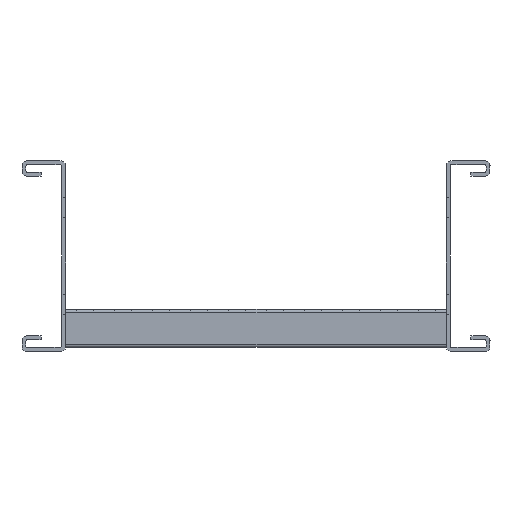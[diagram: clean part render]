
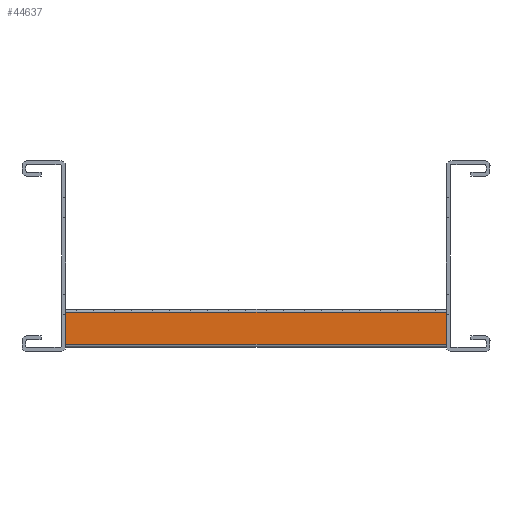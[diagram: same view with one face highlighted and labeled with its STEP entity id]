
A CAD part, left-side view. The second image highlights one B-rep face of the part: STEP entity #44637.
In plain terms, the highlighted planar face has unit normal (-1, 0, 0) as drawn and (0, 1, 0) by its records, which use the part's own axes.
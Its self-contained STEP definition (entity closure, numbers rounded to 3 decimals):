
#3143=FACE_OUTER_BOUND('',#6161,.T.);
#6161=EDGE_LOOP('',(#40474,#40475,#40476,#40477));
#12191=LINE('',#68996,#18191);
#12197=LINE('',#69013,#18197);
#12258=LINE('',#69218,#18258);
#12259=LINE('',#69220,#18259);
#18191=VECTOR('',#56786,304.8);
#18197=VECTOR('',#56798,304.8);
#18258=VECTOR('',#56967,304.8);
#18259=VECTOR('',#56970,304.8);
#22266=VERTEX_POINT('',#68993);
#22267=VERTEX_POINT('',#68995);
#22274=VERTEX_POINT('',#69010);
#22275=VERTEX_POINT('',#69012);
#28306=EDGE_CURVE('',#22266,#22267,#12191,.T.);
#28314=EDGE_CURVE('',#22274,#22275,#12197,.T.);
#28418=EDGE_CURVE('',#22275,#22266,#12258,.T.);
#28419=EDGE_CURVE('',#22274,#22267,#12259,.T.);
#40474=ORIENTED_EDGE('',*,*,#28306,.F.);
#40475=ORIENTED_EDGE('',*,*,#28418,.F.);
#40476=ORIENTED_EDGE('',*,*,#28314,.F.);
#40477=ORIENTED_EDGE('',*,*,#28419,.T.);
#42620=PLANE('',#46778);
#44637=ADVANCED_FACE('',(#3143),#42620,.T.);
#46778=AXIS2_PLACEMENT_3D('',#69219,#56968,#56969);
#56786=DIRECTION('',(0.,0.,-1.));
#56798=DIRECTION('',(0.,0.,1.));
#56967=DIRECTION('',(-1.,0.,0.));
#56968=DIRECTION('center_axis',(0.,1.,0.));
#56969=DIRECTION('ref_axis',(1.,0.,0.));
#56970=DIRECTION('',(-1.,0.,0.));
#68993=CARTESIAN_POINT('',(0.,20.,8.5));
#68995=CARTESIAN_POINT('',(0.,20.,-8.5));
#68996=CARTESIAN_POINT('',(0.,20.,8.5));
#69010=CARTESIAN_POINT('',(200.,20.,-8.5));
#69012=CARTESIAN_POINT('',(200.,20.,8.5));
#69013=CARTESIAN_POINT('',(200.,20.,-8.5));
#69218=CARTESIAN_POINT('',(0.,20.,8.5));
#69219=CARTESIAN_POINT('Origin',(0.,20.,8.5));
#69220=CARTESIAN_POINT('',(0.,20.,-8.5));
